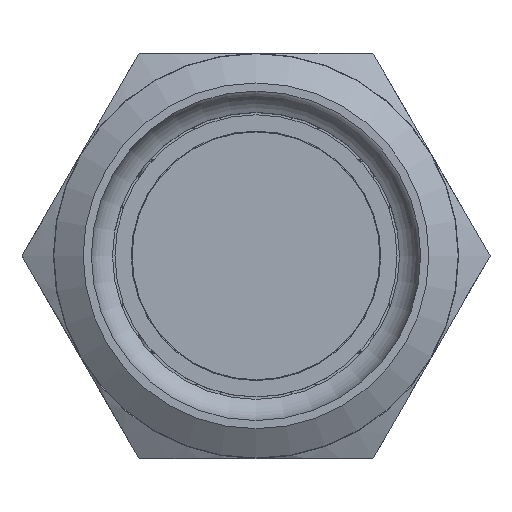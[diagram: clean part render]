
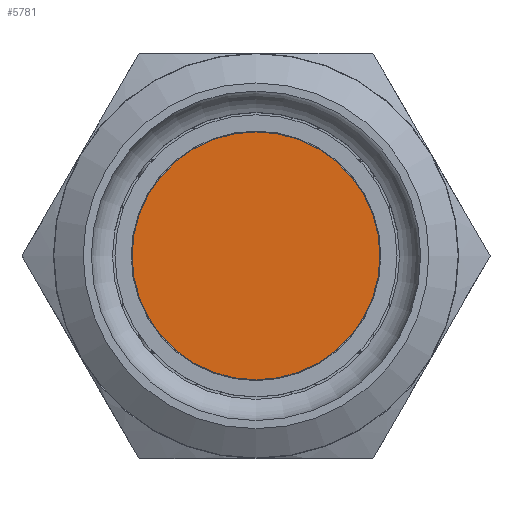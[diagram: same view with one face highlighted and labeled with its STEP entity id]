
A CAD part, top view. The second image highlights one B-rep face of the part: STEP entity #5781.
In plain terms, the highlighted planar face has unit normal (0, 0, 1).
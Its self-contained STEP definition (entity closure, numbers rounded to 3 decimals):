
#5272=CIRCLE('',#24331,7.6);
#5781=ADVANCED_FACE('',(#7415),#6546,.T.);
#6546=PLANE('',#24334);
#7415=FACE_OUTER_BOUND('',#8429,.T.);
#8429=EDGE_LOOP('',(#11154));
#11154=ORIENTED_EDGE('',*,*,#17582,.T.);
#15377=VERTEX_POINT('',#38673);
#17582=EDGE_CURVE('',#15377,#15377,#5272,.T.);
#24331=AXIS2_PLACEMENT_3D('',#38672,#27081,#27082);
#24334=AXIS2_PLACEMENT_3D('',#38677,#27087,#27088);
#27081=DIRECTION('',(0.,0.,1.));
#27082=DIRECTION('',(1.,0.,0.));
#27087=DIRECTION('',(0.,0.,1.));
#27088=DIRECTION('',(1.,0.,0.));
#38672=CARTESIAN_POINT('',(-1.739,0.1,26.4));
#38673=CARTESIAN_POINT('',(5.861,0.1,26.4));
#38677=CARTESIAN_POINT('',(-1.739,0.1,26.4));
